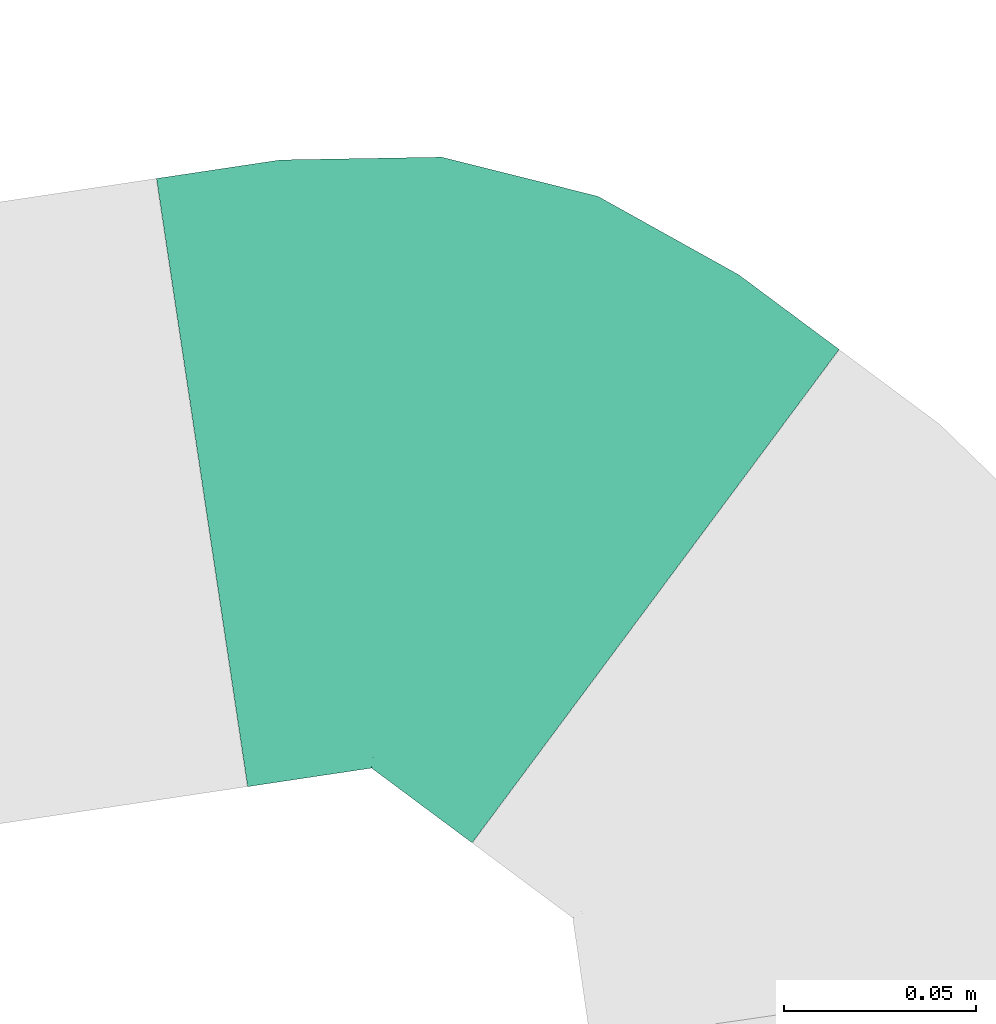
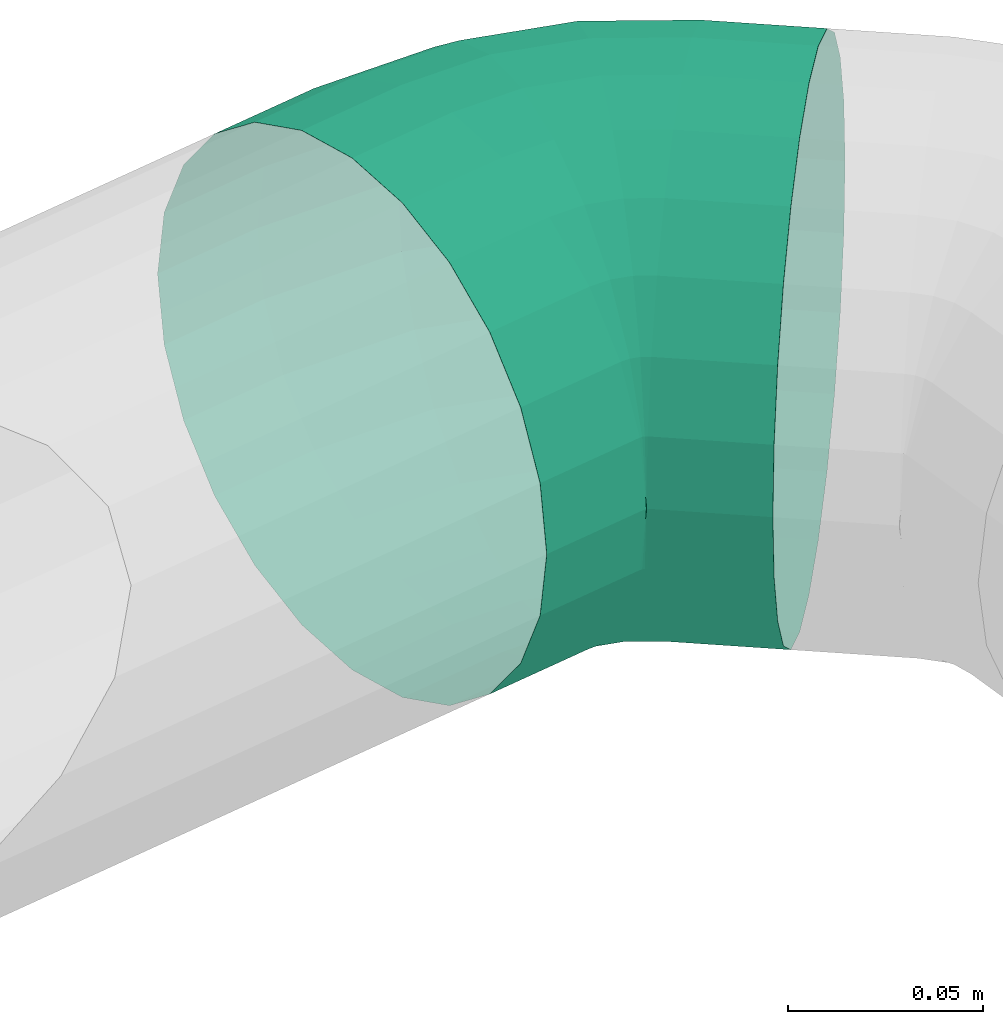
# One storey, part 338 of 374: 1 flow fitting.
"""IFC2X3 building model written with IfcOpenShell, lengths in metres."""

from ifc_helpers import new_model, si_unit, direction, origin, place, context, subcontext, project, spatial, open_shell, surface_model, source, transform, mapped, element, save


model = new_model("IFC2X3")

# Units and contexts
model_context = context("Model", 3, precision=1e-05, world=origin(), true_north=direction((-0.4480736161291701, 0.8939966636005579)))
body_context = subcontext(model_context, "Body", "Model", "MODEL_VIEW")
ifc_project = project(units=[si_unit("LENGTHUNIT", "METRE"), si_unit("AREAUNIT", "SQUARE_METRE"), si_unit("VOLUMEUNIT", "CUBIC_METRE"), si_unit("PLANEANGLEUNIT", "RADIAN"), si_unit("THERMODYNAMICTEMPERATUREUNIT", "KELVIN"), si_unit("MASSUNIT", "GRAM", prefix="KILO"), si_unit("TIMEUNIT", "SECOND")], contexts=[model_context])

# Site, building, storey
site_placement = place(None, origin())
site = spatial("IfcSite", under=ifc_project, at=site_placement, Name="Site 1", CompositionType="ELEMENT")
building_placement = place(site_placement, origin())
building = spatial("IfcBuilding", under=site, at=building_placement, Name="Undefined", CompositionType="ELEMENT")
storey_placement = place(building_placement, origin())
storey = spatial("IfcBuildingStorey", under=building, at=storey_placement, Name="Rez de chauss\x8ee", CompositionType="ELEMENT", Elevation=0.0)

# Flow fitting
shared_shape = source(origin(), body_context, "Body", "SurfaceModel", [
    surface_model("IfcFaceBasedSurfaceModel", [(0.03259999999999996, -3.552713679e-15, -8.8817842e-16), (0.032600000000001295, 0.0208841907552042, -1.776356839e-15), (0.0, 0.020884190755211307, 0.0), (0.0, 0.0, 0.0), (0.03260000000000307, 0.041056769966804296, -0.005405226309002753), (0.0, 0.04105676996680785, -0.005405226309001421), (0.03260000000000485, 0.05914300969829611, -0.015847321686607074), (0.0, 0.05914300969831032, -0.015847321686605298), (0.03260000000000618, 0.07391036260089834, -0.030614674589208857), (0.0, 0.07391036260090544, -0.030614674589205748), (0.032600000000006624, 0.08435245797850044, -0.04870091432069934), (0.0, 0.0843524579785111, -0.048700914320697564), (0.032600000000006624, 0.08975768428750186, -0.0688734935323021), (0.0, 0.08975768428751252, -0.06887349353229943), (0.032600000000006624, 0.08975768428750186, -0.08975768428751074), (0.0, 0.08975768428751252, -0.08975768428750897), (0.03260000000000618, 0.08435245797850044, -0.1099302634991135), (0.0, 0.0843524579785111, -0.10993026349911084), (0.03260000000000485, 0.07391036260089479, -0.12801650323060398), (0.0, 0.07391036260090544, -0.12801650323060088), (0.03260000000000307, 0.05914300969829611, -0.14278385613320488), (0.0, 0.05914300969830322, -0.1427838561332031), (0.032600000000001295, 0.041056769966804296, -0.15322595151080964), (0.0, 0.04105676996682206, -0.15322595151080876), (0.03259999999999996, 0.0208841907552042, -0.15863117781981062), (0.0, 0.020884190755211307, -0.15863117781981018), (0.03259999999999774, -3.552713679e-15, -0.15863117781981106), (0.0, 7.105427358e-15, -0.15863117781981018), (0.03259999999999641, -0.0201725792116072, -0.1532259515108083), (0.0, -0.020172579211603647, -0.15322595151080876), (0.03259999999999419, -0.03825881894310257, -0.14278385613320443), (0.0, -0.038258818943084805, -0.14278385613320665), (0.0325999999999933, -0.05302617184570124, -0.12801650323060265), (0.0, -0.05302617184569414, -0.12801650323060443), (0.03259999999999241, -0.0634682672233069, -0.10993026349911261), (0.0, -0.06346826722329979, -0.10993026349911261), (0.03259999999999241, -0.06887349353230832, -0.08975768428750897), (0.0, -0.06887349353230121, -0.08975768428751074), (0.03259999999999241, -0.06887349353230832, -0.06887349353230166), (0.0, -0.06887349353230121, -0.06887349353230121), (0.0325999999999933, -0.06346826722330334, -0.04870091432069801), (0.0, -0.06346826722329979, -0.04870091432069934), (0.03259999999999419, -0.05302617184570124, -0.030614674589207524), (0.0, -0.05302617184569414, -0.0306146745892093), (0.03259999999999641, -0.038258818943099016, -0.015847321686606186), (0.0, -0.03825881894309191, -0.015847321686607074), (0.03259999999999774, -0.020172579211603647, -0.005405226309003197), (0.0, -0.020172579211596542, -0.005405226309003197), (-0.04085514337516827, 0.08440472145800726, -0.0904624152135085), (-0.04156326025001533, 0.0843119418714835, -0.06959043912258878), (-0.07890520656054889, 0.06871336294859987, -0.0925282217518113), (-0.08027282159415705, 0.06834861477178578, -0.07169205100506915), (-0.11153770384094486, 0.04376096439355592, -0.09581326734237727), (-0.11347091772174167, 0.04296373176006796, -0.07503403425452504), (-0.038779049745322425, 0.07927151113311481, -0.1105991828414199), (-0.07489556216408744, 0.0643775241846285, -0.11256001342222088), (-0.10586980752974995, 0.040693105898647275, -0.11567812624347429), (-0.03547646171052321, 0.06926213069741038, -0.128628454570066), (-0.06851713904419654, 0.055636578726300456, -0.13042229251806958), (-0.09685348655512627, 0.033969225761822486, -0.13327485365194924), (-0.031172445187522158, 0.055058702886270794, -0.14332156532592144), (-0.06020461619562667, 0.043086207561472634, -0.1448977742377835), (-0.08510318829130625, 0.024047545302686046, -0.14740426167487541), (-0.02616031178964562, 0.03762916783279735, -0.15367720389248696), (-0.05052447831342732, 0.027581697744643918, -0.15499997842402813), (-0.07141967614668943, 0.011604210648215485, -0.15710345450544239), (-0.02078163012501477, 0.018161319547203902, -0.15898965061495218), (-0.04013641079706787, 0.010179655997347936, -0.16004045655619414), (-0.05673545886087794, -0.002512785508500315, -0.16171144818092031), (-0.01540294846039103, -0.002018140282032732, -0.15889687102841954), (-0.029748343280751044, -0.007933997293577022, -0.1596757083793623), (-0.04205124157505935, -0.017341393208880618, -0.16091421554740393), (-0.010390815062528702, -0.021534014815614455, -0.15340518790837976), (-0.020068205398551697, -0.025524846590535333, -0.15393059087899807), (-0.028367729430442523, -0.03187106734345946, -0.15476608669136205), (-0.006086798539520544, -0.03905632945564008, -0.14288885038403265), (-0.011755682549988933, -0.0413941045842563, -0.1431966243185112), (-0.01661743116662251, -0.045111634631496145, -0.14368604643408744), (-0.002784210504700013, -0.05339096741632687, -0.1280645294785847), (-0.0053772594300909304, -0.054460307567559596, -0.1282053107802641), (-0.007601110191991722, -0.05616077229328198, -0.1284291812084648), (-0.0007081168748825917, -0.06356104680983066, -0.10994247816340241), (-0.0013676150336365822, -0.0638330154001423, -0.10997828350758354), (-0.0019332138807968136, -0.06426549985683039, -0.11003522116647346), (-0.0007081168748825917, -0.06896627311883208, -0.06888570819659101), (-0.0013676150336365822, -0.06923824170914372, -0.06892151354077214), (-0.0019332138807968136, -0.06967072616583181, -0.06897845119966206), (-0.002784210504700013, -0.06383306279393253, -0.04874894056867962), (-0.0053772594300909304, -0.06490240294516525, -0.048889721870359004), (-0.007601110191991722, -0.06660286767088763, -0.049113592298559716), (-0.006086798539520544, -0.05382368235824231, -0.030719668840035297), (-0.011755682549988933, -0.056161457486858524, -0.031027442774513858), (-0.01661743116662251, -0.05987898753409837, -0.03151686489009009), (-0.010390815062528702, -0.03962025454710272, -0.016026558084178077), (-0.020068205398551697, -0.043611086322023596, -0.016551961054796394), (-0.028367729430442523, -0.04995730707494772, -0.017387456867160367), (-0.01540294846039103, -0.022190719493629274, -0.005670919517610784), (-0.029748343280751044, -0.028106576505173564, -0.006449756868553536), (-0.04205124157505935, -0.03751397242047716, -0.0076882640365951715), (-0.02078163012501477, -0.0027228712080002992, -0.00035847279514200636), (-0.04013641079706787, -0.010704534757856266, -0.0014092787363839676), (-0.05673545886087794, -0.023396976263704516, -0.003080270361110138), (-0.02616031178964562, 0.017456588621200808, -0.00045125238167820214), (-0.05052447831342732, 0.007409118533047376, -0.0017740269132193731), (-0.07141967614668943, -0.008568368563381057, -0.0038775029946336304), (-0.031172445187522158, 0.03697246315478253, -0.005942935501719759), (-0.06020461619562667, 0.02499996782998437, -0.007519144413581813), (-0.08510318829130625, 0.005961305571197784, -0.010025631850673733), (-0.03547646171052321, 0.05449477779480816, -0.016459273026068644), (-0.06851713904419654, 0.04086922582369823, -0.01825311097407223), (-0.09685348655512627, 0.01920187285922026, -0.02110567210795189), (-0.038779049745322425, 0.06882941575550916, -0.03128359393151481), (-0.07489556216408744, 0.053935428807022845, -0.033244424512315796), (-0.10586980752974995, 0.03025101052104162, -0.0363625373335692), (-0.04085514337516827, 0.07899949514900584, -0.049405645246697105), (-0.07890520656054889, 0.06330813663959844, -0.0514714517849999), (-0.11153770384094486, 0.0383557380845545, -0.05475649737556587), (-0.13452116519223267, 0.02083905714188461, -0.09883099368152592), (-0.13645437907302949, 0.020041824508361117, -0.07805176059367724), (-0.12885326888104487, 0.01777119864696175, -0.11869585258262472), (-0.11983694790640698, 0.011047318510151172, -0.1362925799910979), (-0.10808664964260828, 0.0011256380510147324, -0.15042198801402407), (-0.09440313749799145, -0.01131769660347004, -0.16012118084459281), (-0.07971892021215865, -0.025434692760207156, -0.1647291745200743), (-0.06503470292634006, -0.04026330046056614, -0.16393194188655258), (-0.051351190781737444, -0.054792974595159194, -0.15778381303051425), (-0.03960089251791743, -0.06803354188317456, -0.14670377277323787), (-0.030584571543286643, -0.07908267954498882, -0.13144690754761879), (-0.02491667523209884, -0.08718740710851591, -0.11305294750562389), (-0.02298346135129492, -0.09179540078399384, -0.09277541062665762), (-0.02491667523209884, -0.09259263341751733, -0.07199617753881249), (-0.030584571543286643, -0.08952477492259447, -0.0521313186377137), (-0.03960089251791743, -0.08280089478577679, -0.03453459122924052), (-0.051351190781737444, -0.07287921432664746, -0.02040518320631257), (-0.06503470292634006, -0.060435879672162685, -0.010705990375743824), (-0.07971892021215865, -0.04631888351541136, -0.006097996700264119), (-0.09440313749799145, -0.03149027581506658, -0.006895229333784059), (-0.10808664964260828, -0.01696060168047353, -0.013043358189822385), (-0.11983694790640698, -0.003720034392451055, -0.02412339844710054), (-0.12885326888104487, 0.0073291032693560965, -0.03938026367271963), (-0.13452116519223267, 0.015433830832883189, -0.05777422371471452)], [open_shell([[[0, 1, 2, 3]], [[1, 4, 5, 2]], [[4, 6, 7, 5]], [[6, 8, 9, 7]], [[8, 10, 11, 9]], [[10, 12, 13, 11]], [[12, 14, 15, 13]], [[14, 16, 17, 15]], [[16, 18, 19, 17]], [[18, 20, 21, 19]], [[20, 22, 23, 21]], [[22, 24, 25, 23]], [[24, 26, 27, 25]], [[26, 28, 29, 27]], [[28, 30, 31, 29]], [[30, 32, 33, 31]], [[32, 34, 35, 33]], [[34, 36, 37, 35]], [[36, 38, 39, 37]], [[38, 40, 41, 39]], [[40, 42, 43, 41]], [[42, 44, 45, 43]], [[44, 46, 47, 45]], [[46, 0, 3, 47]], [[13, 15, 48, 49]], [[49, 48, 50, 51]], [[51, 50, 52, 53]], [[15, 17, 54, 48]], [[48, 54, 55, 50]], [[50, 55, 56, 52]], [[17, 19, 57, 54]], [[54, 57, 58, 55]], [[55, 58, 59, 56]], [[19, 21, 60, 57]], [[57, 60, 61, 58]], [[58, 61, 62, 59]], [[21, 23, 63, 60]], [[60, 63, 64, 61]], [[61, 64, 65, 62]], [[23, 25, 66, 63]], [[63, 66, 67, 64]], [[64, 67, 68, 65]], [[25, 27, 69, 66]], [[66, 69, 70, 67]], [[67, 70, 71, 68]], [[27, 29, 72, 69]], [[69, 72, 73, 70]], [[70, 73, 74, 71]], [[29, 31, 75, 72]], [[72, 75, 76, 73]], [[73, 76, 77, 74]], [[31, 33, 78, 75]], [[75, 78, 79, 76]], [[76, 79, 80, 77]], [[33, 35, 81, 78]], [[78, 81, 82, 79]], [[79, 82, 83, 80]], [[35, 37, 81]], [[81, 37, 82]], [[82, 37, 83]], [[37, 39, 84]], [[37, 84, 85]], [[37, 85, 86]], [[39, 41, 87, 84]], [[84, 87, 88, 85]], [[85, 88, 89, 86]], [[41, 43, 90, 87]], [[87, 90, 91, 88]], [[88, 91, 92, 89]], [[43, 45, 93, 90]], [[90, 93, 94, 91]], [[91, 94, 95, 92]], [[45, 47, 96, 93]], [[93, 96, 97, 94]], [[94, 97, 98, 95]], [[47, 3, 99, 96]], [[96, 99, 100, 97]], [[97, 100, 101, 98]], [[3, 2, 102, 99]], [[99, 102, 103, 100]], [[100, 103, 104, 101]], [[2, 5, 105, 102]], [[102, 105, 106, 103]], [[103, 106, 107, 104]], [[5, 7, 108, 105]], [[105, 108, 109, 106]], [[106, 109, 110, 107]], [[7, 9, 111, 108]], [[108, 111, 112, 109]], [[109, 112, 113, 110]], [[9, 11, 114, 111]], [[111, 114, 115, 112]], [[112, 115, 116, 113]], [[11, 13, 49, 114]], [[114, 49, 51, 115]], [[115, 51, 53, 116]], [[53, 52, 117, 118]], [[52, 56, 119, 117]], [[56, 59, 120, 119]], [[59, 62, 121, 120]], [[62, 65, 122, 121]], [[65, 68, 123, 122]], [[68, 71, 124, 123]], [[71, 74, 125, 124]], [[74, 77, 126, 125]], [[77, 80, 127, 126]], [[80, 83, 128, 127]], [[83, 37, 129, 128]], [[37, 86, 130, 129]], [[86, 89, 131, 130]], [[89, 92, 132, 131]], [[92, 95, 133, 132]], [[95, 98, 134, 133]], [[98, 101, 135, 134]], [[101, 104, 136, 135]], [[104, 107, 137, 136]], [[107, 110, 138, 137]], [[110, 113, 139, 138]], [[113, 116, 140, 139]], [[116, 53, 118, 140]]])]),
])
flow_fitting_placement = place(storey_placement, origin())
element("IfcFlowFitting", 1, at=flow_fitting_placement, inside=storey, Name="PE-HD coude 45°", ObjectType="PE-HD coude 45°", context=body_context, shape_type="MappedRepresentation", body=[
    mapped(shared_shape, transform((68.28697168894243, 29.136495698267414, -0.713587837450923), x_axis=(0.8023582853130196, -0.5968426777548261, 0.0), y_axis=(0.591736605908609, 0.7954939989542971, -0.13052619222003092), z_axis=(0.0779036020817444, 0.10472877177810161, 0.9914448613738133))),
])

save(model, "model.ifc")
